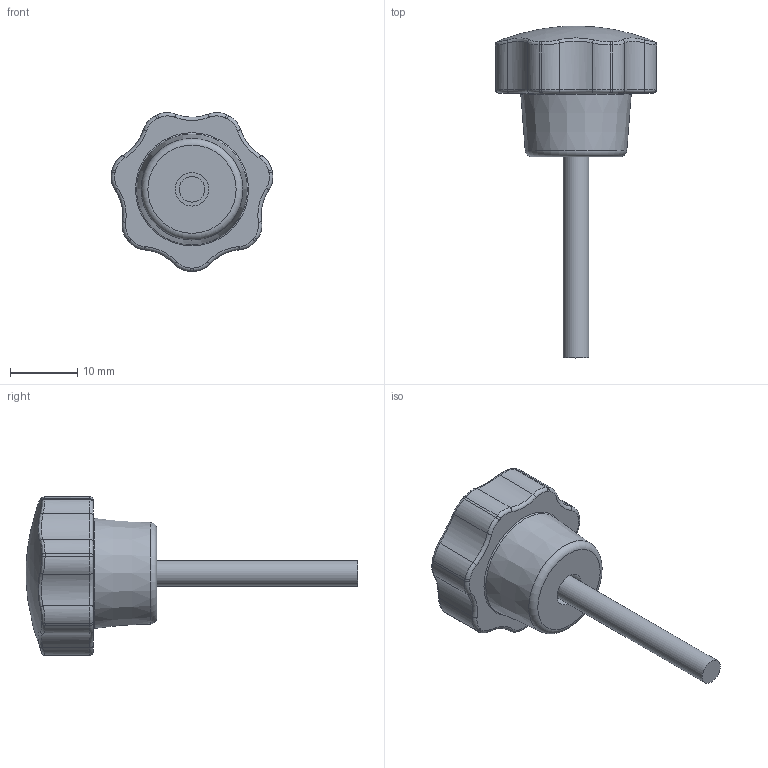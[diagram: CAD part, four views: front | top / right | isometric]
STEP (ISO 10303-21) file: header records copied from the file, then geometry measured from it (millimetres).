
FILE_DESCRIPTION(/* description */ (''),/* implementation_level */ '2;1');
FILE_NAME(/* name */ '\\SYNOLOGYNAS\web\db2\MSKB_M\MSKB4\도면\MSKB-M4-30.stp',/* time_stamp */ '2024-04-09T16:17:44+09:00',/* author */ ('user'),/* organization */ (''),/* preprocessor_version */ 'ST-DEVELOPER v15.6',/* originating_system */ 'Autodesk Inventor 2015',/* authorisation */ '');
FILE_SCHEMA (('AUTOMOTIVE_DESIGN { 1 0 10303 214 3 1 1 }'));
Length unit declared in the file: millimetre
Products named in the file (1): MSKB-M4-30
Bounding box: 24.11 x 49.5 x 23.68 mm (x, y, z)
Volume: 5850.6 mm3; surface area: 2333 mm2
Topology: 1 solids, 1 shells, 94 faces, 212 edges, 122 vertices
Faces by surface type: torus 37, cylinder 30, bspline 22, plane 4, cone 1
Full cylindrical faces by diameter (mm): 3.8 x1, 5 x1
Entity records: 3069 total; most frequent: CARTESIAN_POINT 1025, DIRECTION 444, ORIENTED_EDGE 412, AXIS2_PLACEMENT_3D 208, EDGE_CURVE 206, CIRCLE 135, VERTEX_POINT 122, EDGE_LOOP 102
